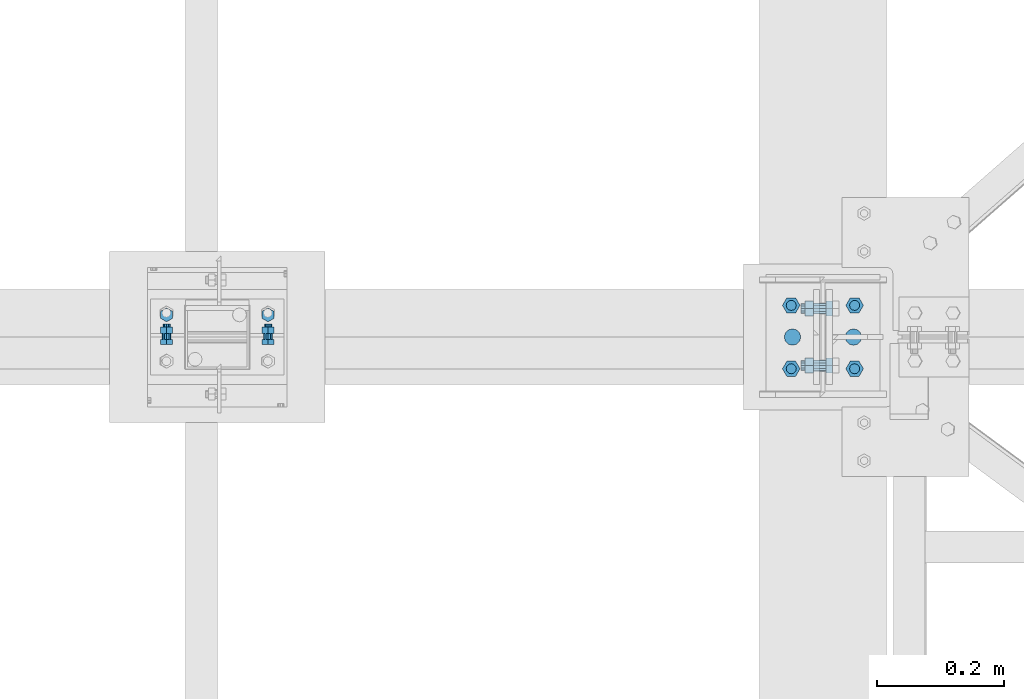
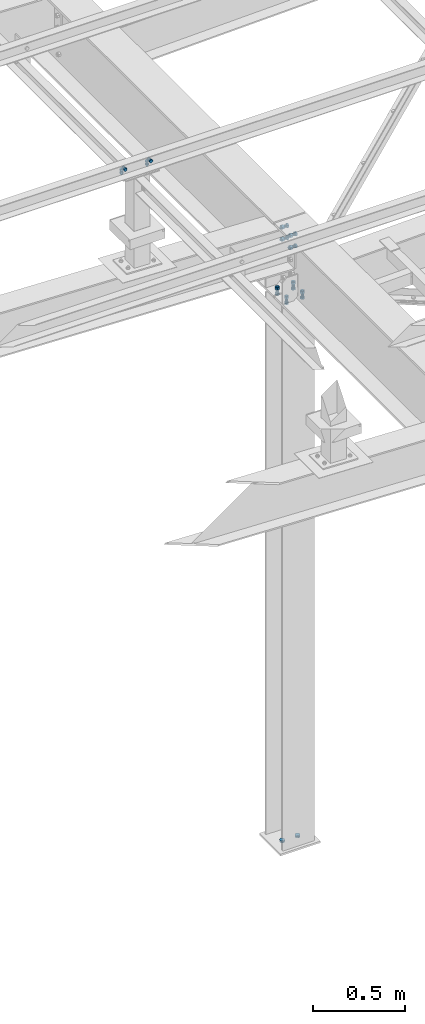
# One storey, part 57 of 3134: 7 mechanical fasteners, 4 elements without a shape of their own.
"""IFC2X3 building model written with IfcOpenShell, lengths in millimetres."""

from ifc_helpers import new_model, si_unit, frame, origin_with_axes, place, context, subcontext, project, spatial, faceted_brep, source, transform, mapped, material, type_object, element, aggregate, save


model = new_model("IFC2X3")

# Units and contexts
model_context = context("Model", 3, precision=1e-05, world=origin_with_axes())
body_context = subcontext(model_context, "Body", "Model", "MODEL_VIEW")
ifc_project = project(units=[si_unit("LENGTHUNIT", "METRE", prefix="MILLI"), si_unit("AREAUNIT", "SQUARE_METRE"), si_unit("VOLUMEUNIT", "CUBIC_METRE"), si_unit("MASSUNIT", "GRAM", prefix="KILO"), si_unit("TIMEUNIT", "SECOND"), si_unit("PLANEANGLEUNIT", "RADIAN"), si_unit("SOLIDANGLEUNIT", "STERADIAN"), si_unit("THERMODYNAMICTEMPERATUREUNIT", "DEGREE_CELSIUS"), si_unit("LUMINOUSINTENSITYUNIT", "LUMEN")], contexts=[model_context])

# Site, building, storey
site_placement = place(None, origin_with_axes())
site = spatial("IfcSite", under=ifc_project, at=site_placement, CompositionType="ELEMENT")
building_placement = place(site_placement, origin_with_axes())
building = spatial("IfcBuilding", under=site, at=building_placement, Name="Undefined", CompositionType="ELEMENT")
storey_placement = place(building_placement, origin_with_axes())
storey = spatial("IfcBuildingStorey", under=building, at=storey_placement, Name="Undefined", CompositionType="ELEMENT", Elevation=0.0)

# Assembly, mechanical fastener
assembly_1_placement = place(storey_placement, origin_with_axes())
assembly_1 = element("IfcElementAssembly", 1, at=assembly_1_placement, inside=storey, Name="HEA200", AssemblyPlace="NOTDEFINED", PredefinedType="RIGID_FRAME")
ifc_material = material(Name="8.8")
mechanical_fastener_type = type_object("IfcMechanicalFastenerType", Name="Bolt assembly")
shared_shape_1 = source(origin_with_axes(), body_context, "Body", "Brep", [
    faceted_brep([(13.0, 0.0, 0.0), (11.2583302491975, 0.0, 6.50000000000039), (6.49999999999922, 0.0, 11.2583302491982), (-1.34723677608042e-12, 0.0, 13.0), (-6.50000000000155, 0.0, 11.2583302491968), (-11.2583302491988, 0.0, 6.49999999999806), (-13.0, 0.0, -2.69447355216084e-12), (-11.2583302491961, 0.0, -6.50000000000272), (-6.4999999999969, 0.0, -11.2583302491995), (4.02727742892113e-12, 0.0, -13.0), (6.50000000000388, 0.0, -11.2583302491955), (11.2583302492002, 0.0, -6.49999999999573), (11.2583302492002, 12.1, -6.49999999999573), (6.50000000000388, 12.1, -11.2583302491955), (4.02727742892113e-12, 12.1, -13.0), (-6.4999999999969, 12.1, -11.2583302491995), (-11.2583302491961, 12.1, -6.50000000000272), (-13.0, 12.1, -2.69447355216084e-12), (-11.2583302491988, 12.1, 6.49999999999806), (-6.50000000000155, 12.1, 11.2583302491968), (-1.34723677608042e-12, 12.1, 13.0), (6.49999999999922, 12.1, 11.2583302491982), (11.2583302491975, 12.1, 6.50000000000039), (13.0, 12.1, 0.0)], [[[0, 1, 2, 3, 4, 5, 6, 7, 8, 9, 10, 11]], [[12, 13, 14, 15, 16, 17, 18, 19, 20, 21, 22, 23]], [[0, 23, 22, 1]], [[1, 22, 21, 2]], [[2, 21, 20, 3]], [[3, 20, 19, 4]], [[4, 19, 18, 5]], [[5, 18, 17, 6]], [[6, 17, 16, 7]], [[7, 16, 15, 8]], [[8, 15, 14, 9]], [[9, 14, 13, 10]], [[10, 13, 12, 11]], [[11, 12, 23, 0]]]),
])
mechanical_fastener_1_placement = place(assembly_1_placement, frame((9295.0, 19450.0, -400.0), z_axis=(1.0, 0.0, 0.0), x_axis=(0.0, 1.0, 0.0)))
mechanical_fastener_1 = element("IfcMechanicalFastener", 2, at=mechanical_fastener_1_placement, type_object=mechanical_fastener_type, material=ifc_material, Name="Bolt assembly", NominalDiameter=24.0, NominalLength=12.0, context=body_context, shape_type="MappedRepresentation", body=[
    mapped(shared_shape_1, transform((0.0, 0.0, -48.0))),
    mapped(shared_shape_1, transform((0.0, 0.0, 48.0))),
])
aggregate(assembly_1, [mechanical_fastener_1])

assembly_2_placement = place(storey_placement, origin_with_axes())
assembly_2 = element("IfcElementAssembly", 3, at=assembly_2_placement, inside=storey, AssemblyPlace="NOTDEFINED", PredefinedType="RIGID_FRAME")
shared_shape_2 = source(origin_with_axes(), body_context, "Body", "Brep", [
    faceted_brep([(10.9696551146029, -14.0, 0.0), (5.48482755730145, -14.0, 9.5), (-5.48482755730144, -14.0, 9.5), (-10.9696551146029, -14.0, 1.34339530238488e-15), (-5.48482755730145, -14.0, -9.5), (5.48482755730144, -14.0, -9.50000000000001), (5.48482755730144, -6.0, -9.50000000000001), (-5.48482755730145, -6.0, -9.5), (-10.9696551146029, -6.0, 1.34339530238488e-15), (-5.48482755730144, -6.0, 9.5), (5.48482755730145, -6.0, 9.5), (10.9696551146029, -6.0, 0.0), (6.0, -6.0, 0.0), (5.19615242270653, -6.0, 3.00000000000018), (2.99999999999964, -6.0, 5.19615242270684), (-6.21801588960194e-13, -6.0, 6.0), (-3.00000000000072, -6.0, 5.19615242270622), (-5.19615242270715, -6.0, 2.9999999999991), (-6.0, -6.0, -1.24360317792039e-12), (-5.19615242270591, -6.0, -3.00000000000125), (-2.99999999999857, -6.0, -5.19615242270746), (1.85874342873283e-12, -6.0, -6.0), (3.00000000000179, -6.0, -5.1961524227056), (5.19615242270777, -6.0, -2.99999999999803), (5.19615242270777, 24.0, -2.99999999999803), (3.00000000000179, 24.0, -5.1961524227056), (1.85874342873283e-12, 24.0, -6.0), (-2.99999999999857, 24.0, -5.19615242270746), (-5.19615242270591, 24.0, -3.00000000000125), (-6.0, 24.0, -1.24360317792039e-12), (-5.19615242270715, 24.0, 2.9999999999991), (-3.00000000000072, 24.0, 5.19615242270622), (-6.21801588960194e-13, 24.0, 6.0), (2.99999999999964, 24.0, 5.19615242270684), (5.19615242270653, 24.0, 3.00000000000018), (6.0, 24.0, 0.0), (10.9696551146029, 6.00000000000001, 0.0), (5.48482755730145, 6.00000000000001, 9.5), (-5.48482755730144, 6.00000000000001, 9.5), (-10.9696551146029, 6.00000000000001, 1.34339530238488e-15), (-5.48482755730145, 6.00000000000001, -9.5), (5.48482755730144, 6.00000000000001, -9.50000000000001), (5.48482755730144, 16.0, -9.50000000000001), (-5.48482755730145, 16.0, -9.5), (-10.9696551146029, 16.0, 1.34339530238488e-15), (-5.48482755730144, 16.0, 9.5), (5.48482755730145, 16.0, 9.5), (10.9696551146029, 16.0, 0.0)], [[[0, 1, 2, 3, 4, 5]], [[6, 7, 8, 9, 10, 11]], [[0, 11, 10, 1]], [[1, 10, 9, 2]], [[2, 9, 8, 3]], [[3, 8, 7, 4]], [[4, 7, 6, 5]], [[5, 6, 11, 0]], [[12, 13, 14, 15, 16, 17, 18, 19, 20, 21, 22, 23]], [[24, 25, 26, 27, 28, 29, 30, 31, 32, 33, 34, 35]], [[12, 35, 34, 13]], [[13, 34, 33, 14]], [[14, 33, 32, 15]], [[15, 32, 31, 16]], [[16, 31, 30, 17]], [[17, 30, 29, 18]], [[18, 29, 28, 19]], [[19, 28, 27, 20]], [[20, 27, 26, 21]], [[21, 26, 25, 22]], [[22, 25, 24, 23]], [[23, 24, 35, 12]], [[36, 37, 38, 39, 40, 41]], [[42, 43, 44, 45, 46, 47]], [[36, 47, 46, 37]], [[37, 46, 45, 38]], [[38, 45, 44, 39]], [[39, 44, 43, 40]], [[40, 43, 42, 41]], [[41, 42, 47, 36]]]),
    faceted_brep([(7.0, -0.1, 0.0), (6.06217782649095, -0.1, 3.50000000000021), (3.49999999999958, -0.1, 6.06217782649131), (-7.25435187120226e-13, -0.1, 7.0), (-3.50000000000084, -0.1, 6.06217782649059), (-6.06217782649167, -0.1, 3.49999999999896), (-7.0, -0.1, -1.45087037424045e-12), (-6.06217782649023, -0.1, -3.50000000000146), (-3.49999999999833, -0.1, -6.06217782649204), (2.1685340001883e-12, -0.1, -7.0), (3.50000000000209, -0.1, -6.06217782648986), (6.0621778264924, -0.1, -3.4999999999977), (6.0621778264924, 6.00000000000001, -3.4999999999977), (3.50000000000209, 6.00000000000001, -6.06217782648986), (2.1685340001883e-12, 6.00000000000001, -7.0), (-3.49999999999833, 6.00000000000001, -6.06217782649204), (-6.06217782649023, 6.00000000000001, -3.50000000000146), (-7.0, 6.00000000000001, -1.45087037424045e-12), (-6.06217782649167, 6.00000000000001, 3.49999999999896), (-3.50000000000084, 6.00000000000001, 6.06217782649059), (-7.25435187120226e-13, 6.00000000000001, 7.0), (3.49999999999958, 6.00000000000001, 6.06217782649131), (6.06217782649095, 6.00000000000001, 3.50000000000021), (7.0, 6.00000000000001, 0.0), (7.0, -5.9, 0.0), (6.06217782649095, -5.9, 3.50000000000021), (3.49999999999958, -5.9, 6.06217782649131), (-7.25435187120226e-13, -5.9, 7.0), (-3.50000000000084, -5.9, 6.06217782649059), (-6.06217782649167, -5.9, 3.49999999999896), (-7.0, -5.9, -1.45087037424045e-12), (-6.06217782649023, -5.9, -3.50000000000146), (-3.49999999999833, -5.9, -6.06217782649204), (2.1685340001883e-12, -5.9, -7.0), (3.50000000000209, -5.9, -6.06217782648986), (6.0621778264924, -5.9, -3.4999999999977), (6.0621778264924, 0.0999999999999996, -3.4999999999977), (3.50000000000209, 0.0999999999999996, -6.06217782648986), (2.1685340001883e-12, 0.0999999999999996, -7.0), (-3.49999999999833, 0.0999999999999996, -6.06217782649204), (-6.06217782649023, 0.0999999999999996, -3.50000000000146), (-7.0, 0.0999999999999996, -1.45087037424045e-12), (-6.06217782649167, 0.0999999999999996, 3.49999999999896), (-3.50000000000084, 0.0999999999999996, 6.06217782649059), (-7.25435187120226e-13, 0.0999999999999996, 7.0), (3.49999999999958, 0.0999999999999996, 6.06217782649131), (6.06217782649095, 0.0999999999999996, 3.50000000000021), (7.0, 0.0999999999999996, 0.0)], [[[0, 1, 2, 3, 4, 5, 6, 7, 8, 9, 10, 11]], [[12, 13, 14, 15, 16, 17, 18, 19, 20, 21, 22, 23]], [[0, 23, 22, 1]], [[1, 22, 21, 2]], [[2, 21, 20, 3]], [[3, 20, 19, 4]], [[4, 19, 18, 5]], [[5, 18, 17, 6]], [[6, 17, 16, 7]], [[7, 16, 15, 8]], [[8, 15, 14, 9]], [[9, 14, 13, 10]], [[10, 13, 12, 11]], [[11, 12, 23, 0]], [[24, 25, 26, 27, 28, 29, 30, 31, 32, 33, 34, 35]], [[36, 37, 38, 39, 40, 41, 42, 43, 44, 45, 46, 47]], [[24, 47, 46, 25]], [[25, 46, 45, 26]], [[26, 45, 44, 27]], [[27, 44, 43, 28]], [[28, 43, 42, 29]], [[29, 42, 41, 30]], [[30, 41, 40, 31]], [[31, 40, 39, 32]], [[32, 39, 38, 33]], [[33, 38, 37, 34]], [[34, 37, 36, 35]], [[35, 36, 47, 24]]]),
])
mechanical_fastener_2_placement = place(assembly_2_placement, frame((8340.0, 19485.0, 4365.0), z_axis=(1.0, 0.0, 0.0), x_axis=(0.0, -1.0, 0.0)))
mechanical_fastener_2 = element("IfcMechanicalFastener", 4, at=mechanical_fastener_2_placement, type_object=mechanical_fastener_type, material=ifc_material, Name="Bolt assembly", NominalDiameter=12.0, NominalLength=30.0, context=body_context, shape_type="MappedRepresentation", body=[
    mapped(shared_shape_2, transform((0.0, -5.32963895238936e-10, -79.9999999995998))),
    mapped(shared_shape_2, transform((0.0, 5.3114490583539e-10, 79.9999999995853))),
])

assembly_3_placement = place(storey_placement, origin_with_axes())
assembly_3 = element("IfcElementAssembly", 5, at=assembly_3_placement, inside=storey, Name="IPE500", AssemblyPlace="NOTDEFINED", PredefinedType="RIGID_FRAME")
shared_shape_3 = source(origin_with_axes(), body_context, "Body", "Brep", [
    faceted_brep([(13.856406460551, -10.0, 0.0), (6.92820323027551, -10.0, 12.0), (-6.92820323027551, -10.0, 12.0), (-13.856406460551, -10.0, 1.69692038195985e-15), (-6.92820323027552, -10.0, -12.0), (6.9282032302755, -10.0, -12.0), (6.9282032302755, 0.0, -12.0), (-6.92820323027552, 0.0, -12.0), (-13.856406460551, 0.0, 1.69692038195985e-15), (-6.92820323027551, 0.0, 12.0), (6.92820323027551, 0.0, 12.0), (13.856406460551, 0.0, 0.0), (8.0, 0.0, 0.0), (6.92820323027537, 0.0, 4.00000000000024), (3.99999999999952, 0.0, 6.92820323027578), (-8.29068785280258e-13, 0.0, 8.0), (-4.00000000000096, 0.0, 6.92820323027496), (-6.9282032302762, 0.0, 3.99999999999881), (-8.0, 0.0, -1.65813757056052e-12), (-6.92820323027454, 0.0, -4.00000000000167), (-3.99999999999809, 0.0, -6.92820323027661), (2.47832457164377e-12, 0.0, -8.0), (4.00000000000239, 0.0, -6.92820323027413), (6.92820323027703, 0.0, -3.99999999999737), (6.92820323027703, 45.0, -3.99999999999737), (4.00000000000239, 45.0, -6.92820323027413), (2.47832457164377e-12, 45.0, -8.0), (-3.99999999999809, 45.0, -6.92820323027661), (-6.92820323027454, 45.0, -4.00000000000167), (-8.0, 45.0, -1.65813757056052e-12), (-6.9282032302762, 45.0, 3.99999999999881), (-4.00000000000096, 45.0, 6.92820323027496), (-8.29068785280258e-13, 45.0, 8.0), (3.99999999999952, 45.0, 6.92820323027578), (6.92820323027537, 45.0, 4.00000000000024), (8.0, 45.0, 0.0), (13.856406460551, 27.9999995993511, 0.0), (6.92820323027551, 27.9999995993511, 12.0), (-6.92820323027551, 27.9999995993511, 12.0), (-13.856406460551, 27.9999995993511, 1.69692038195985e-15), (-6.92820323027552, 27.9999995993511, -12.0), (6.9282032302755, 27.9999995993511, -12.0), (6.9282032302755, 41.0, -12.0), (-6.92820323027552, 41.0, -12.0), (-13.856406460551, 41.0, 1.69692038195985e-15), (-6.92820323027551, 41.0, 12.0), (6.92820323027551, 41.0, 12.0), (13.856406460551, 41.0, 0.0)], [[[0, 1, 2, 3, 4, 5]], [[6, 7, 8, 9, 10, 11]], [[0, 11, 10, 1]], [[1, 10, 9, 2]], [[2, 9, 8, 3]], [[3, 8, 7, 4]], [[4, 7, 6, 5]], [[5, 6, 11, 0]], [[12, 13, 14, 15, 16, 17, 18, 19, 20, 21, 22, 23]], [[24, 25, 26, 27, 28, 29, 30, 31, 32, 33, 34, 35]], [[12, 35, 34, 13]], [[13, 34, 33, 14]], [[14, 33, 32, 15]], [[15, 32, 31, 16]], [[16, 31, 30, 17]], [[17, 30, 29, 18]], [[18, 29, 28, 19]], [[19, 28, 27, 20]], [[20, 27, 26, 21]], [[21, 26, 25, 22]], [[22, 25, 24, 23]], [[23, 24, 35, 12]], [[36, 37, 38, 39, 40, 41]], [[42, 43, 44, 45, 46, 47]], [[36, 47, 46, 37]], [[37, 46, 45, 38]], [[38, 45, 44, 39]], [[39, 44, 43, 40]], [[40, 43, 42, 41]], [[41, 42, 47, 36]]]),
    faceted_brep([(9.0, 0.100000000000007, 0.0), (7.79422863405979, 0.100000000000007, 4.50000000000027), (4.49999999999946, 0.100000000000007, 7.79422863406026), (-9.3270238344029e-13, 0.100000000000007, 9.0), (-4.50000000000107, 0.100000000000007, 7.79422863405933), (-7.79422863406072, 0.100000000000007, 4.49999999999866), (-9.0, 0.100000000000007, -1.86540476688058e-12), (-7.79422863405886, 0.100000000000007, -4.50000000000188), (-4.49999999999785, 0.100000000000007, -7.79422863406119), (2.78811514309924e-12, 0.100000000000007, -9.0), (4.50000000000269, 0.100000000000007, -7.7942286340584), (7.79422863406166, 0.100000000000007, -4.49999999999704), (7.79422863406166, 12.1, -4.49999999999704), (4.50000000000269, 12.1, -7.7942286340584), (2.78811514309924e-12, 12.1, -9.0), (-4.49999999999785, 12.1, -7.79422863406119), (-7.79422863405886, 12.1, -4.50000000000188), (-9.0, 12.1, -1.86540476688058e-12), (-7.79422863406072, 12.1, 4.49999999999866), (-4.50000000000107, 12.1, 7.79422863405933), (-9.3270238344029e-13, 12.1, 9.0), (4.49999999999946, 12.1, 7.79422863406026), (7.79422863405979, 12.1, 4.50000000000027), (9.0, 12.1, 0.0), (9.0, 11.9, 0.0), (7.79422863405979, 11.9, 4.50000000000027), (4.49999999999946, 11.9, 7.79422863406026), (-9.3270238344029e-13, 11.9, 9.0), (-4.50000000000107, 11.9, 7.79422863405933), (-7.79422863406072, 11.9, 4.49999999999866), (-9.0, 11.9, -1.86540476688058e-12), (-7.79422863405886, 11.9, -4.50000000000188), (-4.49999999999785, 11.9, -7.79422863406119), (2.78811514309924e-12, 11.9, -9.0), (4.50000000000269, 11.9, -7.7942286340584), (7.79422863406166, 11.9, -4.49999999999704), (7.79422863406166, 28.0, -4.49999999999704), (4.50000000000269, 28.0, -7.7942286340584), (2.78811514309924e-12, 28.0, -9.0), (-4.49999999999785, 28.0, -7.79422863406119), (-7.79422863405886, 28.0, -4.50000000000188), (-9.0, 28.0, -1.86540476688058e-12), (-7.79422863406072, 28.0, 4.49999999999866), (-4.50000000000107, 28.0, 7.79422863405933), (-9.3270238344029e-13, 28.0, 9.0), (4.49999999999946, 28.0, 7.79422863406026), (7.79422863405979, 28.0, 4.50000000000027), (9.0, 28.0, 0.0)], [[[0, 1, 2, 3, 4, 5, 6, 7, 8, 9, 10, 11]], [[12, 13, 14, 15, 16, 17, 18, 19, 20, 21, 22, 23]], [[0, 23, 22, 1]], [[1, 22, 21, 2]], [[2, 21, 20, 3]], [[3, 20, 19, 4]], [[4, 19, 18, 5]], [[5, 18, 17, 6]], [[6, 17, 16, 7]], [[7, 16, 15, 8]], [[8, 15, 14, 9]], [[9, 14, 13, 10]], [[10, 13, 12, 11]], [[11, 12, 23, 0]], [[24, 25, 26, 27, 28, 29, 30, 31, 32, 33, 34, 35]], [[36, 37, 38, 39, 40, 41, 42, 43, 44, 45, 46, 47]], [[24, 47, 46, 25]], [[25, 46, 45, 26]], [[26, 45, 44, 27]], [[27, 44, 43, 28]], [[28, 43, 42, 29]], [[29, 42, 41, 30]], [[30, 41, 40, 31]], [[31, 40, 39, 32]], [[32, 39, 38, 33]], [[33, 38, 37, 34]], [[34, 37, 36, 35]], [[35, 36, 47, 24]]]),
])
mechanical_fastener_3_placement = place(assembly_3_placement, frame((9345.0, 19400.0, 3202.67), z_axis=(0.0, 1.0, 0.0), x_axis=(-1.0, 0.0, 0.0)))
mechanical_fastener_3 = element("IfcMechanicalFastener", 6, at=mechanical_fastener_3_placement, type_object=mechanical_fastener_type, material=ifc_material, Name="Bolt assembly", NominalDiameter=16.0, NominalLength=45.0, context=body_context, shape_type="MappedRepresentation", body=[
    mapped(shared_shape_3, transform((0.0, 0.0, 0.0))),
    mapped(shared_shape_3, transform((100.0, 0.0, 0.0))),
])

assembly_4_placement = place(storey_placement, origin_with_axes())
assembly_4 = element("IfcElementAssembly", 7, at=assembly_4_placement, inside=storey, Name="IPE500", AssemblyPlace="NOTDEFINED", PredefinedType="RIGID_FRAME")
mechanical_fastener_4_placement = place(assembly_4_placement, frame((9345.0, 19500.0, 3202.67), z_axis=(0.0, 1.0, 0.0), x_axis=(-1.0, 0.0, 0.0)))
mechanical_fastener_4 = element("IfcMechanicalFastener", 8, at=mechanical_fastener_4_placement, type_object=mechanical_fastener_type, material=ifc_material, Name="Bolt assembly", NominalDiameter=16.0, NominalLength=45.0, context=body_context, shape_type="MappedRepresentation", body=[
    mapped(shared_shape_3, transform((0.0, 0.0, 0.0))),
    mapped(shared_shape_3, transform((100.0, 0.0, 0.0))),
])

# Mechanical fastener
shared_shape_4 = source(origin_with_axes(), body_context, "Body", "Brep", [
    faceted_brep([(13.856406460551, 0.0, 0.0), (6.92820323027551, 0.0, 12.0), (-6.92820323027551, 0.0, 12.0), (-13.856406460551, 0.0, 1.69692038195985e-15), (-6.92820323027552, 0.0, -12.0), (6.9282032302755, 0.0, -12.0), (6.9282032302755, 9.99999995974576, -12.0), (-6.92820323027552, 9.99999995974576, -12.0), (-13.856406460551, 9.99999995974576, 1.69692038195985e-15), (-6.92820323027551, 9.99999995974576, 12.0), (6.92820323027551, 9.99999995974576, 12.0), (13.856406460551, 9.99999995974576, 0.0), (8.0, 9.99999995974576, 0.0), (6.92820323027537, 9.99999995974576, 4.00000000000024), (3.99999999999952, 9.99999995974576, 6.92820323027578), (-8.29068785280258e-13, 9.99999995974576, 8.0), (-4.00000000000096, 9.99999995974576, 6.92820323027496), (-6.9282032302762, 9.99999995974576, 3.99999999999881), (-8.0, 9.99999995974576, -1.65813757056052e-12), (-6.92820323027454, 9.99999995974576, -4.00000000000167), (-3.99999999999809, 9.99999995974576, -6.92820323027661), (2.47832457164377e-12, 9.99999995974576, -8.0), (4.00000000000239, 9.99999995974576, -6.92820323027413), (6.92820323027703, 9.99999995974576, -3.99999999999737), (6.92820323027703, 49.9999999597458, -3.99999999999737), (4.00000000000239, 49.9999999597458, -6.92820323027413), (2.47832457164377e-12, 49.9999999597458, -8.0), (-3.99999999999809, 49.9999999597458, -6.92820323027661), (-6.92820323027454, 49.9999999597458, -4.00000000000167), (-8.0, 49.9999999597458, -1.65813757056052e-12), (-6.9282032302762, 49.9999999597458, 3.99999999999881), (-4.00000000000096, 49.9999999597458, 6.92820323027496), (-8.29068785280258e-13, 49.9999999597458, 8.0), (3.99999999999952, 49.9999999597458, 6.92820323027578), (6.92820323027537, 49.9999999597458, 4.00000000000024), (8.0, 49.9999999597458, 0.0), (13.856406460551, 30.1999997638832, 0.0), (6.92820323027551, 30.1999997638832, 12.0), (-6.92820323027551, 30.1999997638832, 12.0), (-13.856406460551, 30.1999997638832, 1.69692038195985e-15), (-6.92820323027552, 30.1999997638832, -12.0), (6.9282032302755, 30.1999997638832, -12.0), (6.9282032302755, 43.1999997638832, -12.0), (-6.92820323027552, 43.1999997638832, -12.0), (-13.856406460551, 43.1999997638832, 1.69692038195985e-15), (-6.92820323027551, 43.1999997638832, 12.0), (6.92820323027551, 43.1999997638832, 12.0), (13.856406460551, 43.1999997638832, 0.0)], [[[0, 1, 2, 3, 4, 5]], [[6, 7, 8, 9, 10, 11]], [[0, 11, 10, 1]], [[1, 10, 9, 2]], [[2, 9, 8, 3]], [[3, 8, 7, 4]], [[4, 7, 6, 5]], [[5, 6, 11, 0]], [[12, 13, 14, 15, 16, 17, 18, 19, 20, 21, 22, 23]], [[24, 25, 26, 27, 28, 29, 30, 31, 32, 33, 34, 35]], [[12, 35, 34, 13]], [[13, 34, 33, 14]], [[14, 33, 32, 15]], [[15, 32, 31, 16]], [[16, 31, 30, 17]], [[17, 30, 29, 18]], [[18, 29, 28, 19]], [[19, 28, 27, 20]], [[20, 27, 26, 21]], [[21, 26, 25, 22]], [[22, 25, 24, 23]], [[23, 24, 35, 12]], [[36, 37, 38, 39, 40, 41]], [[42, 43, 44, 45, 46, 47]], [[36, 47, 46, 37]], [[37, 46, 45, 38]], [[38, 45, 44, 39]], [[39, 44, 43, 40]], [[40, 43, 42, 41]], [[41, 42, 47, 36]]]),
    faceted_brep([(9.0, 20.0999997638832, 0.0), (7.79422863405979, 20.0999997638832, 4.50000000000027), (4.49999999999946, 20.0999997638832, 7.79422863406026), (-9.3270238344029e-13, 20.0999997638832, 9.0), (-4.50000000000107, 20.0999997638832, 7.79422863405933), (-7.79422863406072, 20.0999997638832, 4.49999999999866), (-9.0, 20.0999997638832, -1.86540476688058e-12), (-7.79422863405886, 20.0999997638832, -4.50000000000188), (-4.49999999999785, 20.0999997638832, -7.79422863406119), (2.78811514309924e-12, 20.0999997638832, -9.0), (4.50000000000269, 20.0999997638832, -7.7942286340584), (7.79422863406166, 20.0999997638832, -4.49999999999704), (7.79422863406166, 30.1999997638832, -4.49999999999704), (4.50000000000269, 30.1999997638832, -7.7942286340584), (2.78811514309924e-12, 30.1999997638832, -9.0), (-4.49999999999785, 30.1999997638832, -7.79422863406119), (-7.79422863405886, 30.1999997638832, -4.50000000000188), (-9.0, 30.1999997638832, -1.86540476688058e-12), (-7.79422863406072, 30.1999997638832, 4.49999999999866), (-4.50000000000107, 30.1999997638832, 7.79422863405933), (-9.3270238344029e-13, 30.1999997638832, 9.0), (4.49999999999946, 30.1999997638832, 7.79422863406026), (7.79422863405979, 30.1999997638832, 4.50000000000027), (9.0, 30.1999997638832, 0.0), (9.0, 10.1000023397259, 0.0), (7.79422863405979, 10.1000023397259, 4.50000000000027), (4.49999999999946, 10.1000023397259, 7.79422863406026), (-9.3270238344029e-13, 10.1000023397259, 9.0), (-4.50000000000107, 10.1000023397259, 7.79422863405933), (-7.79422863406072, 10.1000023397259, 4.49999999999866), (-9.0, 10.1000023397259, -1.86540476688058e-12), (-7.79422863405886, 10.1000023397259, -4.50000000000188), (-4.49999999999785, 10.1000023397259, -7.79422863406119), (2.78811514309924e-12, 10.1000023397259, -9.0), (4.50000000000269, 10.1000023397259, -7.7942286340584), (7.79422863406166, 10.1000023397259, -4.49999999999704), (7.79422863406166, 20.2999997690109, -4.49999999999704), (4.50000000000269, 20.2999997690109, -7.7942286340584), (2.78811514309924e-12, 20.2999997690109, -9.0), (-4.49999999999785, 20.2999997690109, -7.79422863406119), (-7.79422863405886, 20.2999997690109, -4.50000000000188), (-9.0, 20.2999997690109, -1.86540476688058e-12), (-7.79422863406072, 20.2999997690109, 4.49999999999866), (-4.50000000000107, 20.2999997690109, 7.79422863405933), (-9.3270238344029e-13, 20.2999997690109, 9.0), (4.49999999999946, 20.2999997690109, 7.79422863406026), (7.79422863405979, 20.2999997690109, 4.50000000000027), (9.0, 20.2999997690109, 0.0)], [[[0, 1, 2, 3, 4, 5, 6, 7, 8, 9, 10, 11]], [[12, 13, 14, 15, 16, 17, 18, 19, 20, 21, 22, 23]], [[0, 23, 22, 1]], [[1, 22, 21, 2]], [[2, 21, 20, 3]], [[3, 20, 19, 4]], [[4, 19, 18, 5]], [[5, 18, 17, 6]], [[6, 17, 16, 7]], [[7, 16, 15, 8]], [[8, 15, 14, 9]], [[9, 14, 13, 10]], [[10, 13, 12, 11]], [[11, 12, 23, 0]], [[24, 25, 26, 27, 28, 29, 30, 31, 32, 33, 34, 35]], [[36, 37, 38, 39, 40, 41, 42, 43, 44, 45, 46, 47]], [[24, 47, 46, 25]], [[25, 46, 45, 26]], [[26, 45, 44, 27]], [[27, 44, 43, 28]], [[28, 43, 42, 29]], [[29, 42, 41, 30]], [[30, 41, 40, 31]], [[31, 40, 39, 32]], [[32, 39, 38, 33]], [[33, 38, 37, 34]], [[34, 37, 36, 35]], [[35, 36, 47, 24]]]),
])
mechanical_fastener_5_placement = place(assembly_3_placement, frame((9310.09999986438, 19405.0, 3631.67000001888), z_axis=(0.0, 1.0, 0.0), x_axis=(0.0, 0.0, -1.0)))
mechanical_fastener_5 = element("IfcMechanicalFastener", 9, at=mechanical_fastener_5_placement, type_object=mechanical_fastener_type, material=ifc_material, Name="Bolt assembly", NominalDiameter=16.0, NominalLength=40.0, context=body_context, shape_type="MappedRepresentation", body=[
    mapped(shared_shape_4, transform((0.0, 0.0, 0.0))),
    mapped(shared_shape_4, transform((80.0, 0.0, 0.0))),
])

aggregate(assembly_3, [mechanical_fastener_3, mechanical_fastener_5])

mechanical_fastener_6_placement = place(assembly_4_placement, frame((9310.09999986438, 19495.0, 3631.67000001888), z_axis=(0.0, 1.0, 0.0), x_axis=(0.0, 0.0, -1.0)))
mechanical_fastener_6 = element("IfcMechanicalFastener", 10, at=mechanical_fastener_6_placement, type_object=mechanical_fastener_type, material=ifc_material, Name="Bolt assembly", NominalDiameter=16.0, NominalLength=40.0, context=body_context, shape_type="MappedRepresentation", body=[
    mapped(shared_shape_4, transform((0.0, 0.0, 0.0))),
    mapped(shared_shape_4, transform((80.0, 0.0, 0.0))),
])

aggregate(assembly_4, [mechanical_fastener_4, mechanical_fastener_6])

shared_shape_5 = source(origin_with_axes(), body_context, "Body", "Brep", [
    faceted_brep([(10.9696551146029, -12.0, 0.0), (5.48482755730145, -12.0, 9.5), (-5.48482755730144, -12.0, 9.5), (-10.9696551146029, -12.0, 1.34339530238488e-15), (-5.48482755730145, -12.0, -9.5), (5.48482755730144, -12.0, -9.50000000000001), (5.48482755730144, -4.0, -9.50000000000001), (-5.48482755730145, -4.0, -9.5), (-10.9696551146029, -4.0, 1.34339530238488e-15), (-5.48482755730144, -4.0, 9.5), (5.48482755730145, -4.0, 9.5), (10.9696551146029, -4.0, 0.0), (6.0, -4.0, 0.0), (5.19615242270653, -4.0, 3.00000000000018), (2.99999999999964, -4.0, 5.19615242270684), (-6.21801588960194e-13, -4.0, 6.0), (-3.00000000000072, -4.0, 5.19615242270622), (-5.19615242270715, -4.0, 2.9999999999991), (-6.0, -4.0, -1.24360317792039e-12), (-5.19615242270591, -4.0, -3.00000000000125), (-2.99999999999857, -4.0, -5.19615242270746), (1.85874342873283e-12, -4.0, -6.0), (3.00000000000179, -4.0, -5.1961524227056), (5.19615242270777, -4.0, -2.99999999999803), (5.19615242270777, 21.0, -2.99999999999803), (3.00000000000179, 21.0, -5.1961524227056), (1.85874342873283e-12, 21.0, -6.0), (-2.99999999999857, 21.0, -5.19615242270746), (-5.19615242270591, 21.0, -3.00000000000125), (-6.0, 21.0, -1.24360317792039e-12), (-5.19615242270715, 21.0, 2.9999999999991), (-3.00000000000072, 21.0, 5.19615242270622), (-6.21801588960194e-13, 21.0, 6.0), (2.99999999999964, 21.0, 5.19615242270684), (5.19615242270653, 21.0, 3.00000000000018), (6.0, 21.0, 0.0), (10.9696551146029, 6.00000000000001, 0.0), (5.48482755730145, 6.00000000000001, 9.5), (-5.48482755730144, 6.00000000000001, 9.5), (-10.9696551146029, 6.00000000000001, 1.34339530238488e-15), (-5.48482755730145, 6.00000000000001, -9.5), (5.48482755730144, 6.00000000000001, -9.50000000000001), (5.48482755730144, 16.0, -9.50000000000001), (-5.48482755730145, 16.0, -9.5), (-10.9696551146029, 16.0, 1.34339530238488e-15), (-5.48482755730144, 16.0, 9.5), (5.48482755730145, 16.0, 9.5), (10.9696551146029, 16.0, 0.0)], [[[0, 1, 2, 3, 4, 5]], [[6, 7, 8, 9, 10, 11]], [[0, 11, 10, 1]], [[1, 10, 9, 2]], [[2, 9, 8, 3]], [[3, 8, 7, 4]], [[4, 7, 6, 5]], [[5, 6, 11, 0]], [[12, 13, 14, 15, 16, 17, 18, 19, 20, 21, 22, 23]], [[24, 25, 26, 27, 28, 29, 30, 31, 32, 33, 34, 35]], [[12, 35, 34, 13]], [[13, 34, 33, 14]], [[14, 33, 32, 15]], [[15, 32, 31, 16]], [[16, 31, 30, 17]], [[17, 30, 29, 18]], [[18, 29, 28, 19]], [[19, 28, 27, 20]], [[20, 27, 26, 21]], [[21, 26, 25, 22]], [[22, 25, 24, 23]], [[23, 24, 35, 12]], [[36, 37, 38, 39, 40, 41]], [[42, 43, 44, 45, 46, 47]], [[36, 47, 46, 37]], [[37, 46, 45, 38]], [[38, 45, 44, 39]], [[39, 44, 43, 40]], [[40, 43, 42, 41]], [[41, 42, 47, 36]]]),
    faceted_brep([(7.0, -3.9, 0.0), (6.06217782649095, -3.9, 3.50000000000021), (3.49999999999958, -3.9, 6.06217782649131), (-7.25435187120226e-13, -3.9, 7.0), (-3.50000000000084, -3.9, 6.06217782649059), (-6.06217782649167, -3.9, 3.49999999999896), (-7.0, -3.9, -1.45087037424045e-12), (-6.06217782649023, -3.9, -3.50000000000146), (-3.49999999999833, -3.9, -6.06217782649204), (2.1685340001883e-12, -3.9, -7.0), (3.50000000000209, -3.9, -6.06217782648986), (6.0621778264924, -3.9, -3.4999999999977), (6.0621778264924, 0.0999999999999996, -3.4999999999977), (3.50000000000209, 0.0999999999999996, -6.06217782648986), (2.1685340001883e-12, 0.0999999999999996, -7.0), (-3.49999999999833, 0.0999999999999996, -6.06217782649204), (-6.06217782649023, 0.0999999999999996, -3.50000000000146), (-7.0, 0.0999999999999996, -1.45087037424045e-12), (-6.06217782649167, 0.0999999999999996, 3.49999999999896), (-3.50000000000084, 0.0999999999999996, 6.06217782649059), (-7.25435187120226e-13, 0.0999999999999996, 7.0), (3.49999999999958, 0.0999999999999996, 6.06217782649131), (6.06217782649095, 0.0999999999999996, 3.50000000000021), (7.0, 0.0999999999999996, 0.0), (7.0, -0.1, 0.0), (6.06217782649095, -0.1, 3.50000000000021), (3.49999999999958, -0.1, 6.06217782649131), (-7.25435187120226e-13, -0.1, 7.0), (-3.50000000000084, -0.1, 6.06217782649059), (-6.06217782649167, -0.1, 3.49999999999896), (-7.0, -0.1, -1.45087037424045e-12), (-6.06217782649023, -0.1, -3.50000000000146), (-3.49999999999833, -0.1, -6.06217782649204), (2.1685340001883e-12, -0.1, -7.0), (3.50000000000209, -0.1, -6.06217782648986), (6.0621778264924, -0.1, -3.4999999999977), (6.0621778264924, 6.00000000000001, -3.4999999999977), (3.50000000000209, 6.00000000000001, -6.06217782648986), (2.1685340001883e-12, 6.00000000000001, -7.0), (-3.49999999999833, 6.00000000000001, -6.06217782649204), (-6.06217782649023, 6.00000000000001, -3.50000000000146), (-7.0, 6.00000000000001, -1.45087037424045e-12), (-6.06217782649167, 6.00000000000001, 3.49999999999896), (-3.50000000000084, 6.00000000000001, 6.06217782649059), (-7.25435187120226e-13, 6.00000000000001, 7.0), (3.49999999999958, 6.00000000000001, 6.06217782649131), (6.06217782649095, 6.00000000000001, 3.50000000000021), (7.0, 6.00000000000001, 0.0)], [[[0, 1, 2, 3, 4, 5, 6, 7, 8, 9, 10, 11]], [[12, 13, 14, 15, 16, 17, 18, 19, 20, 21, 22, 23]], [[0, 23, 22, 1]], [[1, 22, 21, 2]], [[2, 21, 20, 3]], [[3, 20, 19, 4]], [[4, 19, 18, 5]], [[5, 18, 17, 6]], [[6, 17, 16, 7]], [[7, 16, 15, 8]], [[8, 15, 14, 9]], [[9, 14, 13, 10]], [[10, 13, 12, 11]], [[11, 12, 23, 0]], [[24, 25, 26, 27, 28, 29, 30, 31, 32, 33, 34, 35]], [[36, 37, 38, 39, 40, 41, 42, 43, 44, 45, 46, 47]], [[24, 47, 46, 25]], [[25, 46, 45, 26]], [[26, 45, 44, 27]], [[27, 44, 43, 28]], [[28, 43, 42, 29]], [[29, 42, 41, 30]], [[30, 41, 40, 31]], [[31, 40, 39, 32]], [[32, 39, 38, 33]], [[33, 38, 37, 34]], [[34, 37, 36, 35]], [[35, 36, 47, 24]]]),
])
mechanical_fastener_7_placement = place(assembly_2_placement, frame((8340.0, 19450.0, 4400.0), z_axis=(1.0, 0.0, 0.0), x_axis=(0.0, 0.0, -1.0)))
mechanical_fastener_7 = element("IfcMechanicalFastener", 11, at=mechanical_fastener_7_placement, type_object=mechanical_fastener_type, material=ifc_material, Name="Bolt assembly", NominalDiameter=12.0, NominalLength=25.0, context=body_context, shape_type="MappedRepresentation", body=[
    mapped(shared_shape_5, transform((0.0, -5.32963895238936e-10, -79.9999999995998))),
    mapped(shared_shape_5, transform((0.0, 5.3114490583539e-10, 79.9999999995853))),
])

aggregate(assembly_2, [mechanical_fastener_7, mechanical_fastener_2])

save(model, "model.ifc")
